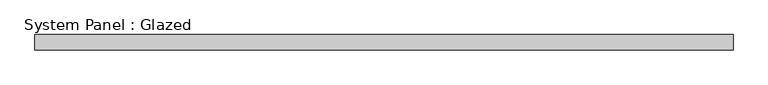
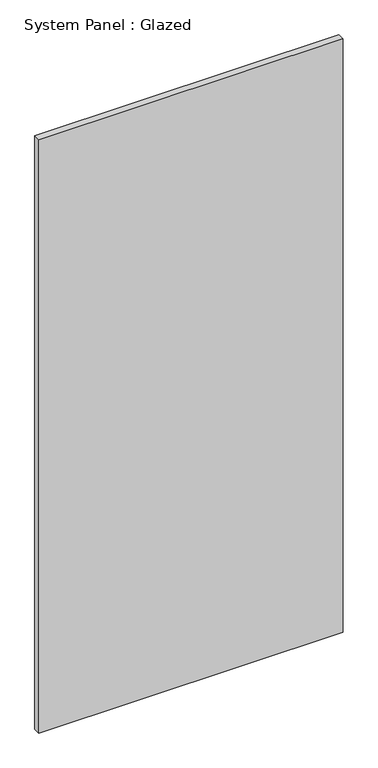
"""IFC4 building model written with IfcOpenShell, lengths in millimetres: plate geometry, System Panel : Glazed."""

from ifc_helpers import new_model, si_unit, origin, origin_with_axes, place, context, project, spatial, polyline, outline, extrude, source, transform, mapped, element, save


def system_panel_glazed_ba6276c6(model_context):
    return source(origin(), model_context, "Body", "SweptSolid", [
        extrude(outline(polyline([(573.4875, -49.5), (-573.4875, -49.5), (-573.4875, -24.5), (573.4875, -24.5), (573.4875, -49.5)])), origin_with_axes(), (0.0, 0.0, 1.0), 2363.4),
    ])


if __name__ == "__main__":
    model = new_model("IFC4")
    model_context = context("Model", 3, world=origin())
    ifc_project = project(units=[si_unit("LENGTHUNIT", "METRE", prefix="MILLI")], contexts=[model_context])
    site = spatial("IfcSite", under=ifc_project)
    building = spatial("IfcBuilding", under=site)
    placement = place(None, origin())
    system_panel_glazed_shape = system_panel_glazed_ba6276c6(model_context)
    element("IfcPlate", 1, ObjectType="System Panel : Glazed", at=placement, inside=building, context=model_context, shape_type="MappedRepresentation", body=[
        mapped(system_panel_glazed_shape, transform((0.0, 0.0, 0.0), x_axis=(1.0, 0.0, 0.0), y_axis=(0.0, 1.0, 0.0), z_axis=(0.0, 0.0, 1.0))),
    ])
    save(model, "model.ifc")
